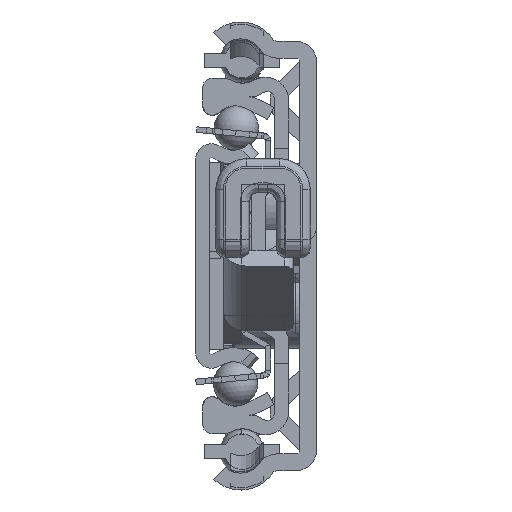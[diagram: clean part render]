
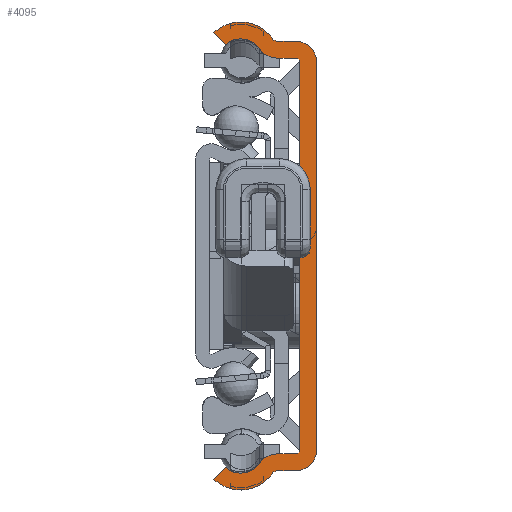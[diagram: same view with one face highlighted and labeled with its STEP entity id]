
A CAD part, left-side view. The second image highlights one B-rep face of the part: STEP entity #4095.
In plain terms, the highlighted planar face has unit normal (-1, 0, 0).
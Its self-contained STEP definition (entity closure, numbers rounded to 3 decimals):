
#1=DIRECTION('',(0.,1.,0.));
#2=VECTOR('',#1,1.975);
#3=CARTESIAN_POINT('',(0.,2.3,21.15));
#4=LINE('',#3,#2);
#5=CARTESIAN_POINT('',(0.,4.275,23.45));
#6=DIRECTION('',(-1.,0.,0.));
#7=DIRECTION('',(0.,0.827,-0.562));
#8=AXIS2_PLACEMENT_3D('',#5,#6,#7);
#10=CARTESIAN_POINT('',(0.,8.147,20.82));
#11=DIRECTION('',(-1.,0.,0.));
#12=DIRECTION('',(0.,-0.827,0.562));
#13=AXIS2_PLACEMENT_3D('',#10,#11,#12);
#15=DIRECTION('',(0.,0.683,0.731));
#16=VECTOR('',#15,1.8);
#17=CARTESIAN_POINT('',(0.,9.771,22.559));
#18=LINE('',#17,#16);
#19=CARTESIAN_POINT('',(0.,8.147,20.82));
#20=DIRECTION('',(1.,0.,0.));
#21=DIRECTION('',(0.,0.683,0.731));
#22=AXIS2_PLACEMENT_3D('',#19,#20,#21);
#24=DIRECTION('',(0.,-1.,0.));
#25=VECTOR('',#24,1.975);
#26=CARTESIAN_POINT('',(0.,4.275,22.95));
#27=LINE('',#26,#25);
#28=CARTESIAN_POINT('',(0.,2.3,20.65));
#29=DIRECTION('',(-1.,0.,0.));
#30=DIRECTION('',(0.,-1.,0.));
#31=AXIS2_PLACEMENT_3D('',#28,#29,#30);
#33=DIRECTION('',(0.,0.,-1.));
#34=VECTOR('',#33,41.3);
#35=CARTESIAN_POINT('',(0.,0.,20.65));
#36=LINE('',#35,#34);
#37=CARTESIAN_POINT('',(0.,2.3,-20.65));
#38=DIRECTION('',(-1.,0.,0.));
#39=DIRECTION('',(0.,0.,-1.));
#40=AXIS2_PLACEMENT_3D('',#37,#38,#39);
#42=DIRECTION('',(0.,1.,0.));
#43=VECTOR('',#42,1.975);
#44=CARTESIAN_POINT('',(0.,2.3,-22.95));
#45=LINE('',#44,#43);
#46=CARTESIAN_POINT('',(0.,8.147,-20.82));
#47=DIRECTION('',(1.,0.,0.));
#48=DIRECTION('',(0.,-0.827,-0.562));
#49=AXIS2_PLACEMENT_3D('',#46,#47,#48);
#51=DIRECTION('',(0.,-0.683,0.731));
#52=VECTOR('',#51,1.8);
#53=CARTESIAN_POINT('',(0.,11.,-23.875));
#54=LINE('',#53,#52);
#55=CARTESIAN_POINT('',(0.,8.147,-20.82));
#56=DIRECTION('',(-1.,0.,0.));
#57=DIRECTION('',(0.,0.683,-0.731));
#58=AXIS2_PLACEMENT_3D('',#55,#56,#57);
#60=CARTESIAN_POINT('',(0.,4.275,-23.45));
#61=DIRECTION('',(-1.,0.,0.));
#62=DIRECTION('',(0.,0.,1.));
#63=AXIS2_PLACEMENT_3D('',#60,#61,#62);
#65=DIRECTION('',(0.,-1.,0.));
#66=VECTOR('',#65,1.975);
#67=CARTESIAN_POINT('',(0.,4.275,-21.15));
#68=LINE('',#67,#66);
#181=DIRECTION('',(0.,0.,-1.));
#182=VECTOR('',#181,41.3);
#183=CARTESIAN_POINT('',(0.,1.8,20.65));
#184=LINE('',#183,#182);
#781=CARTESIAN_POINT('',(0.,2.3,-20.65));
#782=DIRECTION('',(1.,0.,0.));
#783=DIRECTION('',(0.,-1.,0.));
#784=AXIS2_PLACEMENT_3D('',#781,#782,#783);
#898=CARTESIAN_POINT('',(0.,4.275,-23.45));
#899=DIRECTION('',(1.,0.,0.));
#900=DIRECTION('',(0.,0.827,0.562));
#901=AXIS2_PLACEMENT_3D('',#898,#899,#900);
#1762=CARTESIAN_POINT('',(0.,4.275,23.45));
#1763=DIRECTION('',(1.,0.,0.));
#1764=DIRECTION('',(0.,0.,-1.));
#1765=AXIS2_PLACEMENT_3D('',#1762,#1763,#1764);
#1911=CARTESIAN_POINT('',(0.,2.3,20.65));
#1912=DIRECTION('',(1.,0.,0.));
#1913=DIRECTION('',(0.,0.,1.));
#1914=AXIS2_PLACEMENT_3D('',#1911,#1912,#1913);
#3124=CARTESIAN_POINT('',(0.,11.,-23.875));
#3125=CARTESIAN_POINT('',(0.,9.771,-22.559));
#3126=VERTEX_POINT('',#3124);
#3127=VERTEX_POINT('',#3125);
#3128=CARTESIAN_POINT('',(0.,9.771,22.559));
#3129=CARTESIAN_POINT('',(0.,11.,23.875));
#3130=VERTEX_POINT('',#3128);
#3131=VERTEX_POINT('',#3129);
#3140=CARTESIAN_POINT('',(0.,4.275,22.95));
#3141=CARTESIAN_POINT('',(0.,4.689,23.169));
#3142=VERTEX_POINT('',#3140);
#3143=VERTEX_POINT('',#3141);
#3148=CARTESIAN_POINT('',(0.,4.689,-23.169));
#3149=CARTESIAN_POINT('',(0.,4.275,-22.95));
#3150=VERTEX_POINT('',#3148);
#3151=VERTEX_POINT('',#3149);
#3156=CARTESIAN_POINT('',(0.,2.3,-21.15));
#3158=VERTEX_POINT('',#3156);
#3160=CARTESIAN_POINT('',(0.,2.3,21.15));
#3162=VERTEX_POINT('',#3160);
#3164=CARTESIAN_POINT('',(0.,1.8,-20.65));
#3165=VERTEX_POINT('',#3164);
#3168=CARTESIAN_POINT('',(0.,1.8,20.65));
#3169=VERTEX_POINT('',#3168);
#3172=CARTESIAN_POINT('',(0.,4.275,-21.15));
#3173=CARTESIAN_POINT('',(0.,6.178,-22.157));
#3174=VERTEX_POINT('',#3172);
#3175=VERTEX_POINT('',#3173);
#3180=CARTESIAN_POINT('',(0.,0.,20.65));
#3181=CARTESIAN_POINT('',(0.,2.3,22.95));
#3182=VERTEX_POINT('',#3180);
#3183=VERTEX_POINT('',#3181);
#3188=CARTESIAN_POINT('',(0.,6.178,22.157));
#3189=CARTESIAN_POINT('',(0.,4.275,21.15));
#3190=VERTEX_POINT('',#3188);
#3191=VERTEX_POINT('',#3189);
#3196=CARTESIAN_POINT('',(0.,2.3,-22.95));
#3197=CARTESIAN_POINT('',(0.,0.,-20.65));
#3198=VERTEX_POINT('',#3196);
#3199=VERTEX_POINT('',#3197);
#4048=CARTESIAN_POINT('',(0.,0.,0.));
#4049=DIRECTION('',(1.,0.,0.));
#4050=DIRECTION('',(0.,-1.,0.));
#4051=AXIS2_PLACEMENT_3D('',#4048,#4049,#4050);
#4052=PLANE('',#4051);
#4054=ORIENTED_EDGE('',*,*,#4053,.F.);
#4056=ORIENTED_EDGE('',*,*,#4055,.F.);
#4058=ORIENTED_EDGE('',*,*,#4057,.T.);
#4060=ORIENTED_EDGE('',*,*,#4059,.F.);
#4062=ORIENTED_EDGE('',*,*,#4061,.T.);
#4064=ORIENTED_EDGE('',*,*,#4063,.T.);
#4066=ORIENTED_EDGE('',*,*,#4065,.T.);
#4068=ORIENTED_EDGE('',*,*,#4067,.F.);
#4070=ORIENTED_EDGE('',*,*,#4069,.T.);
#4072=ORIENTED_EDGE('',*,*,#4071,.F.);
#4074=ORIENTED_EDGE('',*,*,#4073,.T.);
#4076=ORIENTED_EDGE('',*,*,#4075,.F.);
#4078=ORIENTED_EDGE('',*,*,#4077,.T.);
#4080=ORIENTED_EDGE('',*,*,#4079,.F.);
#4082=ORIENTED_EDGE('',*,*,#4081,.T.);
#4084=ORIENTED_EDGE('',*,*,#4083,.T.);
#4086=ORIENTED_EDGE('',*,*,#4085,.T.);
#4088=ORIENTED_EDGE('',*,*,#4087,.F.);
#4090=ORIENTED_EDGE('',*,*,#4089,.T.);
#4092=ORIENTED_EDGE('',*,*,#4091,.F.);
#4093=EDGE_LOOP('',(#4054,#4056,#4058,#4060,#4062,#4064,#4066,#4068,#4070,#4072,
#4074,#4076,#4078,#4080,#4082,#4084,#4086,#4088,#4090,#4092));
#4094=FACE_OUTER_BOUND('',#4093,.F.);
#9=CIRCLE('',#8,2.3);
#14=CIRCLE('',#13,2.38);
#23=CIRCLE('',#22,4.18);
#32=CIRCLE('',#31,2.3);
#41=CIRCLE('',#40,2.3);
#50=CIRCLE('',#49,4.18);
#59=CIRCLE('',#58,2.38);
#64=CIRCLE('',#63,2.3);
#785=CIRCLE('',#784,0.5);
#902=CIRCLE('',#901,0.5);
#1766=CIRCLE('',#1765,0.5);
#1915=CIRCLE('',#1914,0.5);
#4053=EDGE_CURVE('',#3169,#3165,#184,.T.);
#4055=EDGE_CURVE('',#3162,#3169,#1915,.T.);
#4057=EDGE_CURVE('',#3162,#3191,#4,.T.);
#4059=EDGE_CURVE('',#3190,#3191,#9,.T.);
#4061=EDGE_CURVE('',#3190,#3130,#14,.T.);
#4063=EDGE_CURVE('',#3130,#3131,#18,.T.);
#4065=EDGE_CURVE('',#3131,#3143,#23,.T.);
#4067=EDGE_CURVE('',#3142,#3143,#1766,.T.);
#4069=EDGE_CURVE('',#3142,#3183,#27,.T.);
#4071=EDGE_CURVE('',#3182,#3183,#32,.T.);
#4073=EDGE_CURVE('',#3182,#3199,#36,.T.);
#4075=EDGE_CURVE('',#3198,#3199,#41,.T.);
#4077=EDGE_CURVE('',#3198,#3151,#45,.T.);
#4079=EDGE_CURVE('',#3150,#3151,#902,.T.);
#4081=EDGE_CURVE('',#3150,#3126,#50,.T.);
#4083=EDGE_CURVE('',#3126,#3127,#54,.T.);
#4085=EDGE_CURVE('',#3127,#3175,#59,.T.);
#4087=EDGE_CURVE('',#3174,#3175,#64,.T.);
#4089=EDGE_CURVE('',#3174,#3158,#68,.T.);
#4091=EDGE_CURVE('',#3165,#3158,#785,.T.);
#4095=ADVANCED_FACE('',(#4094),#4052,.F.);
